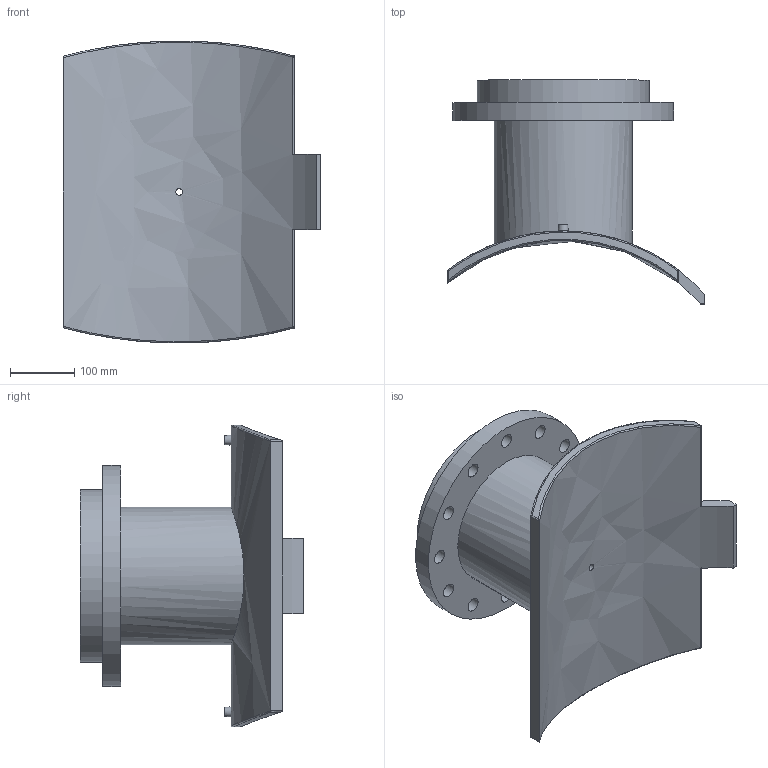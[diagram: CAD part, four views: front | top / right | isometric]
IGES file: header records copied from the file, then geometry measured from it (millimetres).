
Global section: file name: 495903560200T; native system: Autodesk Inventor 2019; preprocessor: unknown; author: KIM; date: 20240403.210120; units: millimetre
Bounding box: 400 x 348.47 x 469.78 mm (x, y, z)
Volume: 8634733.4 mm3; surface area: 842090.2 mm2
Topology: 1 solids, 1 shells, 62 faces, 163 edges, 126 vertices
Faces by surface type: bspline 62
